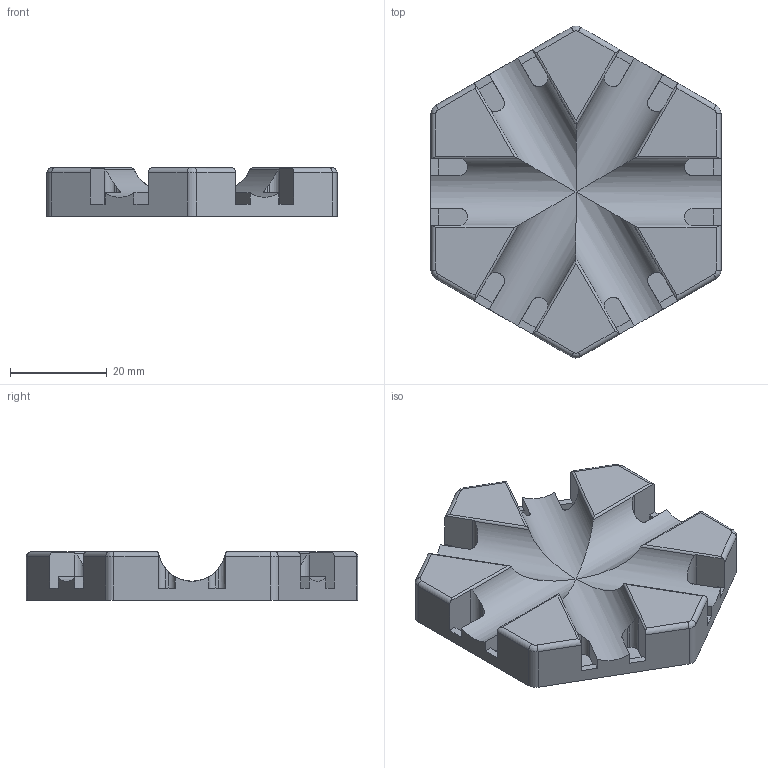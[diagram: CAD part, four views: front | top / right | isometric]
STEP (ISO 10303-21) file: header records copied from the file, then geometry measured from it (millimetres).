
FILE_DESCRIPTION(/* description */ ('','CAx-IF Rec.Pracs.---Representation and Presentation of Product Manufacturing Information (PMI)---4.0---2014-10-13'),/* implementation_level */ '2;1');
FILE_NAME(/* name */ '3Weg-Kreuzung.step',/* time_stamp */ '2025-01-13T22:18:49+01:00',/* author */ (''),/* organization */ (''),/* preprocessor_version */ 'ST-DEVELOPER v20',/* originating_system */ 'Autodesk Translation Framework v13.20.0.188',/* authorisation */ '');
FILE_SCHEMA (('AP242_MANAGED_MODEL_BASED_3D_ENGINEERING_MIM_LF { 1 0 10303 442 1 1 4 }'));
Length unit declared in the file: millimetre
Products named in the file (1): 01_3Weg-Kreuzung
Bounding box: 60 x 68.66 x 10 mm (x, y, z)
Volume: 19453.4 mm3; surface area: 9845.8 mm2
Topology: 1 solids, 1 shells, 177 faces, 486 edges, 313 vertices
Faces by surface type: plane 111, cylinder 60, bspline 6
Entity records: 5916 total; most frequent: CARTESIAN_POINT 1421, ORIENTED_EDGE 972, DIRECTION 878, EDGE_CURVE 486, LINE 342, VECTOR 342, VERTEX_POINT 313, AXIS2_PLACEMENT_3D 268
